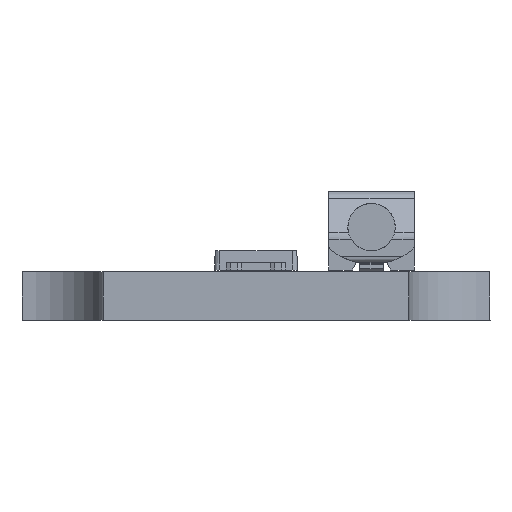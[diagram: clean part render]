
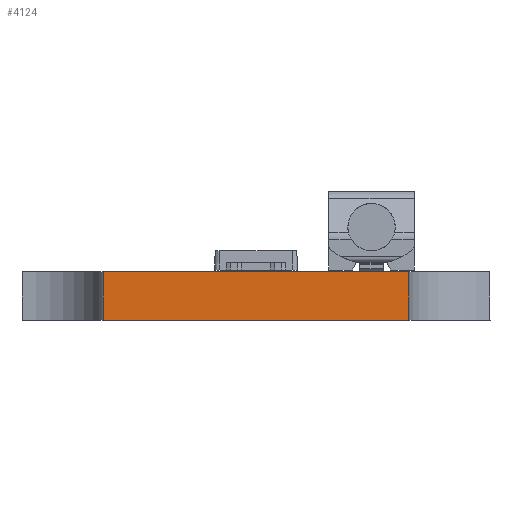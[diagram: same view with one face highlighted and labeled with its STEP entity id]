
A CAD part, left-side view. The second image highlights one B-rep face of the part: STEP entity #4124.
In plain terms, the highlighted planar face has unit normal (-1, 0, 0).
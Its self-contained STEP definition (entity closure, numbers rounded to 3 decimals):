
#971=DIRECTION('',(0.,0.,1.));
#972=VECTOR('',#971,1.65);
#973=CARTESIAN_POINT('',(-69.8,5.15,0.));
#974=LINE('',#973,#972);
#985=DIRECTION('',(0.,1.,0.));
#986=VECTOR('',#985,10.3);
#987=CARTESIAN_POINT('',(-69.8,-5.15,1.65));
#988=LINE('',#987,#986);
#992=DIRECTION('',(0.,0.,-1.));
#993=VECTOR('',#992,1.65);
#994=CARTESIAN_POINT('',(-69.8,-5.15,1.65));
#995=LINE('',#994,#993);
#1021=DIRECTION('',(0.,1.,0.));
#1022=VECTOR('',#1021,10.3);
#1023=CARTESIAN_POINT('',(-69.8,-5.15,0.));
#1024=LINE('',#1023,#1022);
#2931=CARTESIAN_POINT('',(-69.8,-5.15,1.65));
#2932=CARTESIAN_POINT('',(-69.8,5.15,1.65));
#2933=VERTEX_POINT('',#2931);
#2934=VERTEX_POINT('',#2932);
#2981=CARTESIAN_POINT('',(-69.8,-5.15,0.));
#2982=VERTEX_POINT('',#2981);
#2983=CARTESIAN_POINT('',(-69.8,5.15,0.));
#2984=VERTEX_POINT('',#2983);
#4111=CARTESIAN_POINT('',(-69.8,5.15,1.65));
#4112=DIRECTION('',(-1.,0.,0.));
#4113=DIRECTION('',(0.,0.,1.));
#4114=AXIS2_PLACEMENT_3D('',#4111,#4112,#4113);
#4115=PLANE('',#4114);
#4117=ORIENTED_EDGE('',*,*,#4116,.T.);
#4119=ORIENTED_EDGE('',*,*,#4118,.T.);
#4120=ORIENTED_EDGE('',*,*,#4095,.T.);
#4121=ORIENTED_EDGE('',*,*,#4009,.F.);
#4122=EDGE_LOOP('',(#4117,#4119,#4120,#4121));
#4123=FACE_OUTER_BOUND('',#4122,.F.);
#4009=EDGE_CURVE('',#2933,#2934,#988,.T.);
#4095=EDGE_CURVE('',#2984,#2934,#974,.T.);
#4116=EDGE_CURVE('',#2933,#2982,#995,.T.);
#4118=EDGE_CURVE('',#2982,#2984,#1024,.T.);
#4124=ADVANCED_FACE('',(#4123),#4115,.T.);
